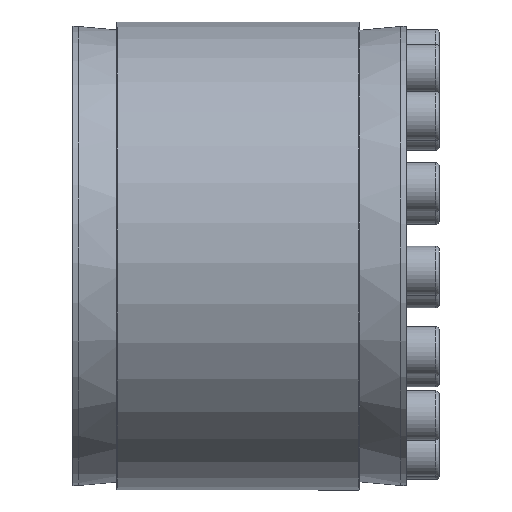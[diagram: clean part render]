
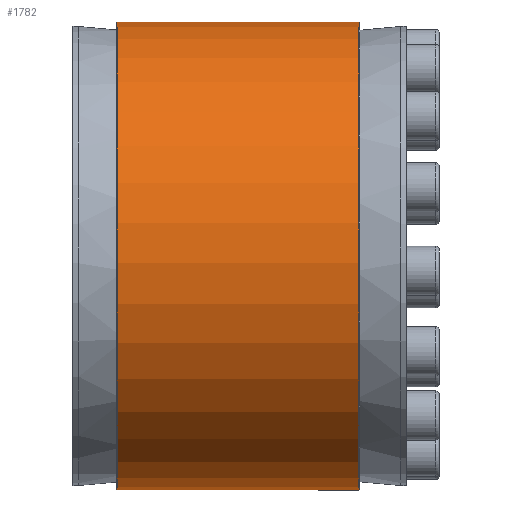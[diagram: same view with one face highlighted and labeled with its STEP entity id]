
A CAD part, top view. The second image highlights one B-rep face of the part: STEP entity #1782.
In plain terms, the highlighted cylindrical face has radius 100.25 mm (diameter 200.5 mm), a partial arc.
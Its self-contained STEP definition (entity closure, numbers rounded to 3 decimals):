
#822=CARTESIAN_POINT('',(43.298,118.503,100.239));
#823=VERTEX_POINT('',#822);
#830=CARTESIAN_POINT('',(146.698,118.503,100.239));
#831=VERTEX_POINT('',#830);
#832=CARTESIAN_POINT('',(146.698,118.503,100.239));
#833=DIRECTION('',(-1.0,0.0,0.0));
#834=VECTOR('',#833,103.4);
#835=LINE('',#832,#834);
#836=EDGE_CURVE('',#831,#823,#835,.T.);
#1034=CARTESIAN_POINT('',(146.698,121.503,100.239));
#1035=VERTEX_POINT('',#1034);
#1042=CARTESIAN_POINT('',(43.298,121.503,100.239));
#1043=VERTEX_POINT('',#1042);
#1044=CARTESIAN_POINT('',(43.298,121.503,100.239));
#1045=DIRECTION('',(1.0,0.0,0.0));
#1046=VECTOR('',#1045,103.4);
#1047=LINE('',#1044,#1046);
#1048=EDGE_CURVE('',#1043,#1035,#1047,.T.);
#1753=CARTESIAN_POINT('',(146.698,120.003,0.0));
#1754=DIRECTION('',(-1.0,0.0,0.0));
#1755=DIRECTION('',(0.0,-1.0,0.0));
#1756=AXIS2_PLACEMENT_3D('',#1753,#1754,#1755);
#1757=CIRCLE('',#1756,100.25);
#1758=EDGE_CURVE('',#1035,#831,#1757,.T.);
#1765=CARTESIAN_POINT('',(94.998,120.003,0.0));
#1766=DIRECTION('',(-1.0,0.0,0.0));
#1767=DIRECTION('',(0.0,-1.0,0.0));
#1768=AXIS2_PLACEMENT_3D('',#1765,#1766,#1767);
#1769=CYLINDRICAL_SURFACE('',#1768,100.25);
#1770=ORIENTED_EDGE('',*,*,#836,.T.);
#1771=CARTESIAN_POINT('',(43.298,120.003,0.0));
#1772=DIRECTION('',(-1.0,0.0,0.0));
#1773=DIRECTION('',(0.0,-1.0,0.0));
#1774=AXIS2_PLACEMENT_3D('',#1771,#1772,#1773);
#1775=CIRCLE('',#1774,100.25);
#1776=EDGE_CURVE('',#1043,#823,#1775,.T.);
#1777=ORIENTED_EDGE('',*,*,#1776,.F.);
#1778=ORIENTED_EDGE('',*,*,#1048,.T.);
#1779=ORIENTED_EDGE('',*,*,#1758,.T.);
#1780=EDGE_LOOP('',(#1770,#1777,#1778,#1779));
#1781=FACE_OUTER_BOUND('',#1780,.T.);
#1782=ADVANCED_FACE('',(#1781),#1769,.T.);
